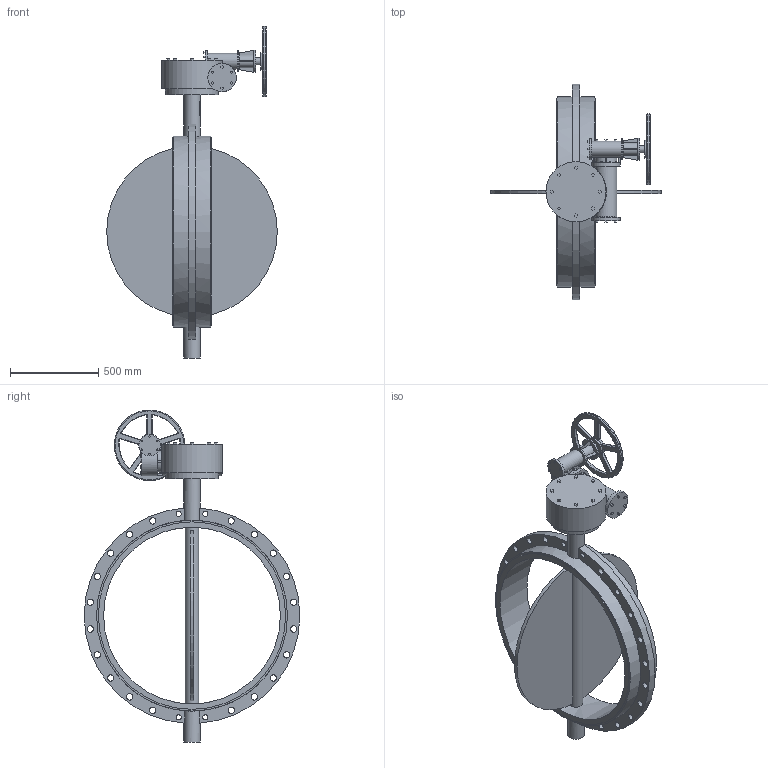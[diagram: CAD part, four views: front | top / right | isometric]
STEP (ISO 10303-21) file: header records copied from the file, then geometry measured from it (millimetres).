
FILE_DESCRIPTION(('STEP AP203'), '1');
FILE_NAME('青蜮铕 017W.YS_DN1000_PN10_疱潴牝铕', '', ('UNSPECIFIED'), ('UNSPECIFIED'), 'ASCON STEP Converter 1.6', 'ASCON Math Kernel', '');
FILE_SCHEMA(('CONFIG_CONTROL_DESIGN'));
Length unit declared in the file: millimetre
Bounding box: 965 x 1220 x 1878 mm (x, y, z)
Volume: 83544450.5 mm3; surface area: 4823347.9 mm2
Topology: 1 solids, 1 shells, 600 faces, 1525 edges, 974 vertices
Faces by surface type: plane 372, cylinder 127, torus 78, cone 16, bspline 7
Full cylindrical faces by diameter (mm): 13.835 x8, 18 x8, 29.211 x4, 36 x20, 40 x1, 75 x1, 90 x1, 95 x2, 100 x1, 120 x2, 121 x2, 125 x1, 161 x3, 300 x1, 340 x1, 400 x1, 1000 x1, 1060 x2, 1080 x2
Entity records: 25214 total; most frequent: CARTESIAN_POINT 5903, DIRECTION 3004, ORIENTED_EDGE 2862, EDGE_CURVE 1431, AXIS2_PLACEMENT_3D 1032, VERTEX_POINT 966, LINE 940, VECTOR 940
